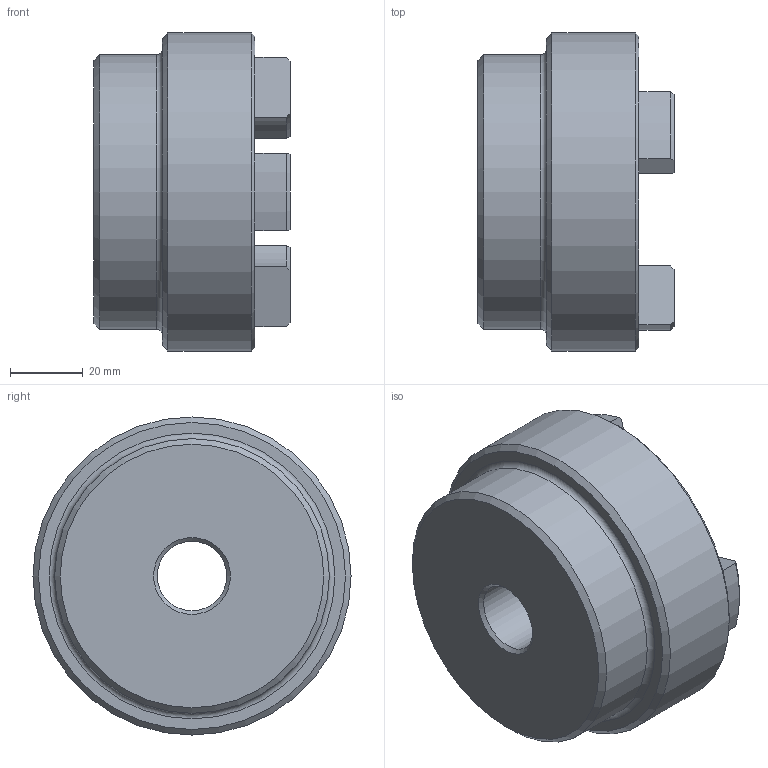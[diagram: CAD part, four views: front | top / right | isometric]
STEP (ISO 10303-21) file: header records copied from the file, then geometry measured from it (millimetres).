
FILE_DESCRIPTION (( 'STEP AP203' ), '1' );
FILE_NAME ('RC3.step', '2024-07-24T12:57:05', ( 'Adlan' ), ( '' ), 'SwSTEP 2.0', 'SolidWorks 2013', '' );
FILE_SCHEMA (( 'CONFIG_CONTROL_DESIGN' ));
Length unit declared in the file: inch
Products named in the file (1): RC3
Bounding box: 53.85 x 87.38 x 87.38 mm (x, y, z)
Volume: 187347.4 mm3; surface area: 29482.2 mm2
Topology: 1 solids, 1 shells, 60 faces, 146 edges, 90 vertices
Faces by surface type: cylinder 24, plane 13, torus 13, cone 10
Full cylindrical faces by diameter (mm): 19.058 x1, 75.438 x1, 87.376 x1
Entity records: 1841 total; most frequent: CARTESIAN_POINT 341, DIRECTION 324, ORIENTED_EDGE 274, EDGE_CURVE 137, AXIS2_PLACEMENT_3D 132, VERTEX_POINT 89, EDGE_LOOP 72, CIRCLE 71
